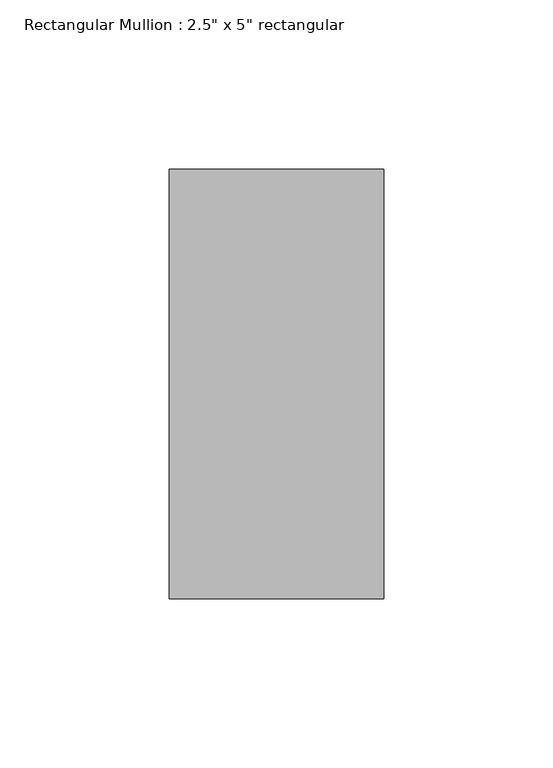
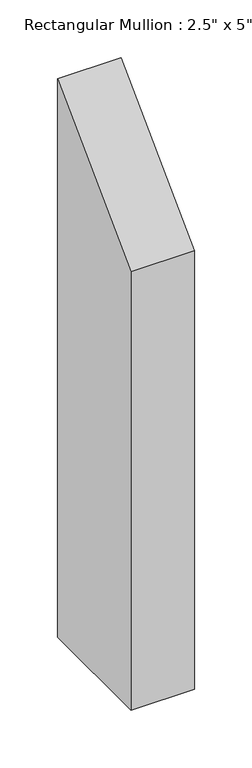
"""IFC4 building model written with IfcOpenShell, lengths in millimetres: member geometry."""

from ifc_helpers import new_model, si_unit, frame, origin, place, context, project, spatial, polyline, outline, extrude, source, transform, mapped, element, save


def member_9ea90918(model_context):
    return source(origin(), model_context, "Body", "SweptSolid", [
        extrude(outline(polyline([(-63.5, -63.5), (63.5, 63.5), (63.5, -527.05), (-63.5, -527.05), (-63.5, -63.5)])), frame((-63.5, 0.0, 0.0), z_axis=(1.0, 0.0, 0.0), x_axis=(0.0, 1.0, 0.0)), (0.0, 0.0, 1.0), 63.5),
    ])


if __name__ == "__main__":
    model = new_model("IFC4")
    model_context = context("Model", 3, world=origin())
    ifc_project = project(units=[si_unit("LENGTHUNIT", "METRE", prefix="MILLI")], contexts=[model_context])
    site = spatial("IfcSite", under=ifc_project)
    building = spatial("IfcBuilding", under=site)
    placement = place(None, origin())
    member_shape = member_9ea90918(model_context)
    element("IfcMember", 1, ObjectType="Rectangular Mullion : 2.5\" x 5\" rectangular", at=placement, inside=building, context=model_context, shape_type="MappedRepresentation", body=[
        mapped(member_shape, transform((0.0, 0.0, 0.0), x_axis=(1.0, 0.0, 0.0), y_axis=(0.0, 1.0, 0.0), z_axis=(0.0, 0.0, 1.0))),
    ])
    save(model, "model.ifc")
